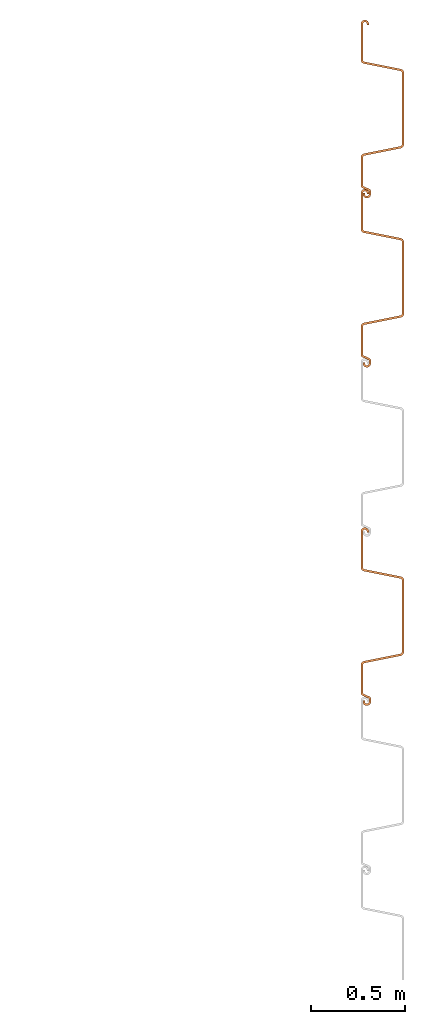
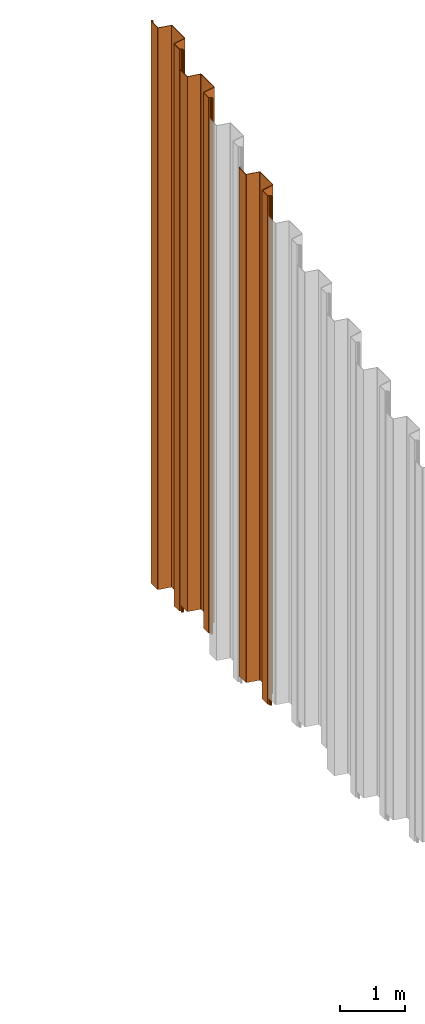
# One storey, part 12 of 12: 3 proxies.
"""IFC2X3 building model written with IfcOpenShell, lengths in millimetres."""

from ifc_helpers import new_model, entity, si_unit, converted_unit, derived_unit, direction, frame, frame_2d, origin, place, context, subcontext, project, spatial, polyline, circle_curve, parameter, trimmed, segment, composite_curve, outline, extrude, source, transform, mapped, material, type_object, type_shapes, element, save


model = new_model("IFC2X3")

# Units and contexts
model_context = context("Model", 3, precision=0.01, world=origin(), true_north=direction((6.12303176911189e-17, 1.0)))
body_context = subcontext(model_context, "Body", "Model", "MODEL_VIEW")
ifc_project = project(units=[si_unit("LENGTHUNIT", "METRE", prefix="MILLI"), si_unit("AREAUNIT", "SQUARE_METRE"), si_unit("VOLUMEUNIT", "CUBIC_METRE"), converted_unit("PLANEANGLEUNIT", "DEGREE", entity("IfcRatioMeasure", 0.0174532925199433), si_unit("PLANEANGLEUNIT", "RADIAN"), dimensions=[0, 0, 0, 0, 0, 0, 0]), si_unit("MASSUNIT", "GRAM", prefix="KILO"), derived_unit("MASSDENSITYUNIT", [(si_unit("MASSUNIT", "GRAM", prefix="KILO"), 1), (si_unit("LENGTHUNIT", "METRE"), -3)]), derived_unit("MOMENTOFINERTIAUNIT", [(si_unit("LENGTHUNIT", "METRE"), 4)]), si_unit("TIMEUNIT", "SECOND"), si_unit("FREQUENCYUNIT", "HERTZ"), si_unit("THERMODYNAMICTEMPERATUREUNIT", "DEGREE_CELSIUS"), derived_unit("THERMALTRANSMITTANCEUNIT", [(si_unit("MASSUNIT", "GRAM", prefix="KILO"), 1), (si_unit("THERMODYNAMICTEMPERATUREUNIT", "KELVIN"), -1), (si_unit("TIMEUNIT", "SECOND"), -3)]), derived_unit("VOLUMETRICFLOWRATEUNIT", [(si_unit("LENGTHUNIT", "METRE"), 3), (si_unit("TIMEUNIT", "SECOND"), -1)]), si_unit("ELECTRICCURRENTUNIT", "AMPERE"), si_unit("ELECTRICVOLTAGEUNIT", "VOLT"), si_unit("POWERUNIT", "WATT"), si_unit("FORCEUNIT", "NEWTON", prefix="KILO"), si_unit("ILLUMINANCEUNIT", "LUX"), si_unit("LUMINOUSFLUXUNIT", "LUMEN"), si_unit("LUMINOUSINTENSITYUNIT", "CANDELA"), derived_unit("USERDEFINED", [(si_unit("MASSUNIT", "GRAM", prefix="KILO"), -1), (si_unit("LENGTHUNIT", "METRE"), -2), (si_unit("TIMEUNIT", "SECOND"), 3), (si_unit("LUMINOUSFLUXUNIT", "LUMEN"), 1)]), derived_unit("LINEARVELOCITYUNIT", [(si_unit("LENGTHUNIT", "METRE"), 1), (si_unit("TIMEUNIT", "SECOND"), -1)]), si_unit("PRESSUREUNIT", "PASCAL"), derived_unit("USERDEFINED", [(si_unit("LENGTHUNIT", "METRE"), -2), (si_unit("MASSUNIT", "GRAM", prefix="KILO"), 1), (si_unit("TIMEUNIT", "SECOND"), -2)]), derived_unit("LINEARFORCEUNIT", [(si_unit("MASSUNIT", "GRAM", prefix="KILO"), 1), (si_unit("LENGTHUNIT", "METRE"), 1), (si_unit("TIMEUNIT", "SECOND"), -2), (si_unit("LENGTHUNIT", "METRE"), -1)]), derived_unit("PLANARFORCEUNIT", [(si_unit("MASSUNIT", "GRAM", prefix="KILO"), 1), (si_unit("LENGTHUNIT", "METRE"), 1), (si_unit("TIMEUNIT", "SECOND"), -2), (si_unit("LENGTHUNIT", "METRE"), -2)])], contexts=[model_context])

# Site, building, storey
site_placement = place(None, origin())
site = spatial("IfcSite", under=ifc_project, at=site_placement, Name="Default", CompositionType="ELEMENT")
building_placement = place(site_placement, origin())
building = spatial("IfcBuilding", under=site, at=building_placement, CompositionType="ELEMENT")
storey_placement = place(building_placement, frame((0.0, 0.0, 10600.0)))
storey = spatial("IfcBuildingStorey", under=building, at=storey_placement, Name="AP+10.600", CompositionType="ELEMENT", Elevation=10600.0)

# Proxies
ifc_material = material(Name="<Unnamed>")
building_element_proxy_type_1 = type_object("IfcBuildingElementProxyType", Name="鋼矢板10H型:鋼矢板10H型", PredefinedType="NOTDEFINED", material=ifc_material)
shared_shape_1 = source(origin(), body_context, "Body", "SweptSolid", [
    extrude(outline(composite_curve([segment(trimmed(circle_curve(frame_2d((85.3662976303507, 306.644432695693), x_axis=(0.422618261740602, 0.906307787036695)), 13.885714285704), [parameter(24.9999999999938)], [parameter(90.0000000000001)], True, "PARAMETER"), True, "CONTINUOUS"), segment(polyline([(72.7815666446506, 312.512789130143), (9.8129512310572, 177.476157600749)]), True, "CONTINUOUS"), segment(trimmed(circle_curve(frame_2d((29.3891994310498, 168.347603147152), x_axis=(0.422618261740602, 0.906307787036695)), 21.6), [parameter(90.0000000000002)], [parameter(168.69006752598)], True, "PARAMETER"), True, "CONTINUOUS"), segment(polyline([(16.598697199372, 150.941769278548), (175.329723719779, 34.2998683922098)]), True, "CONTINUOUS"), segment(trimmed(circle_curve(frame_2d((168.93447260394, 25.596951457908), x_axis=(0.422618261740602, 0.906307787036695)), 10.7999999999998), [parameter(270.0)], [parameter(348.690067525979)], True, "PARAMETER"), False, "CONTINUOUS"), segment(polyline([(178.722596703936, 21.0326742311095), (18.2974003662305, -323.000269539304)]), True, "CONTINUOUS"), segment(trimmed(circle_curve(frame_2d((8.50927626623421, -318.435992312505), x_axis=(0.422618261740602, 0.906307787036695)), 10.8), [parameter(191.30993247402)], [parameter(269.999999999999)], True, "PARAMETER"), False, "CONTINUOUS"), segment(polyline([(5.95324328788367, -328.929166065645), (-185.429973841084, -282.310113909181)]), True, "CONTINUOUS"), segment(trimmed(circle_curve(frame_2d((-190.542039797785, -303.296461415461), x_axis=(0.422618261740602, 0.906307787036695)), 21.6000000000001), [parameter(11.3099324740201)], [parameter(90.0000000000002)], True, "PARAMETER"), True, "CONTINUOUS"), segment(polyline([(-210.118287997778, -294.167906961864), (-290.330886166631, -466.184378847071)]), True, "CONTINUOUS"), segment(trimmed(circle_curve(frame_2d((-270.754637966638, -475.312933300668), x_axis=(0.422618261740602, 0.906307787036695)), 21.6), [parameter(90.0000000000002)], [parameter(269.999999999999)], True, "PARAMETER"), True, "CONTINUOUS"), segment(polyline([(-251.178389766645, -484.441487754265), (-249.065298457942, -479.909948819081)]), True, "CONTINUOUS"), segment(polyline([(-249.065298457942, -479.909948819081), (-258.853422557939, -475.345671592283)]), True, "CONTINUOUS"), segment(polyline([(-258.853422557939, -475.345671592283), (-260.966513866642, -479.877210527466)]), True, "CONTINUOUS"), segment(trimmed(circle_curve(frame_2d((-270.754637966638, -475.312933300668), x_axis=(0.422618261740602, 0.906307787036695)), 10.8), [parameter(90.0000000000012)], [parameter(270.0)], True, "PARAMETER"), False, "CONTINUOUS"), segment(polyline([(-280.542762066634, -470.748656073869), (-200.330163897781, -298.732184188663)]), True, "CONTINUOUS"), segment(trimmed(circle_curve(frame_2d((-190.542039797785, -303.296461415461), x_axis=(0.422618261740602, 0.906307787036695)), 10.8), [parameter(11.3099324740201)], [parameter(89.9999999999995)], True, "PARAMETER"), False, "CONTINUOUS"), segment(polyline([(-187.986006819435, -292.803287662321), (3.39721030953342, -339.422339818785)]), True, "CONTINUOUS"), segment(trimmed(circle_curve(frame_2d((8.50927626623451, -318.435992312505), x_axis=(0.422618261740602, 0.906307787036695)), 21.6), [parameter(191.30993247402)], [parameter(270.0)], True, "PARAMETER"), True, "CONTINUOUS"), segment(polyline([(28.0855244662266, -327.564546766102), (188.510720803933, 16.4683970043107)]), True, "CONTINUOUS"), segment(trimmed(circle_curve(frame_2d((168.93447260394, 25.5969514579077), x_axis=(0.422618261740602, 0.906307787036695)), 21.6), [parameter(270.0)], [parameter(348.69006752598)], True, "PARAMETER"), True, "CONTINUOUS"), segment(polyline([(181.724974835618, 43.0027853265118), (22.9939483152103, 159.644686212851)]), True, "CONTINUOUS"), segment(trimmed(circle_curve(frame_2d((29.3891994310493, 168.347603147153), x_axis=(0.422618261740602, 0.906307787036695)), 10.7999999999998), [parameter(89.9999999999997)], [parameter(168.690067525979)], True, "PARAMETER"), False, "CONTINUOUS"), segment(polyline([(19.6010753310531, 172.911880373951), (82.5696907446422, 307.948511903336)]), True, "CONTINUOUS"), segment(trimmed(circle_curve(frame_2d((85.3662976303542, 306.64443269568), x_axis=(0.422618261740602, 0.906307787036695)), 3.08571428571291), [parameter(25.0000000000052)], [parameter(90.0000000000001)], True, "PARAMETER"), False, "CONTINUOUS"), segment(polyline([(85.3662976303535, 309.730146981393), (122.220231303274, 309.730146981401)]), True, "CONTINUOUS"), segment(trimmed(circle_curve(frame_2d((122.220231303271, 323.615861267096), x_axis=(0.422618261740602, 0.906307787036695)), 13.8857142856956), [parameter(205.000000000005)], [parameter(270.0)], True, "PARAMETER"), True, "CONTINUOUS"), segment(polyline([(134.804962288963, 317.747504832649), (141.079261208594, 331.202782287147)]), True, "CONTINUOUS"), segment(trimmed(circle_curve(frame_2d((121.503013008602, 340.331336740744), x_axis=(0.422618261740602, 0.906307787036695)), 21.6), [parameter(270.0)], [parameter(90.0000000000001)], True, "PARAMETER"), True, "CONTINUOUS"), segment(polyline([(101.926764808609, 349.459891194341), (99.8136734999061, 344.928352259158)]), True, "CONTINUOUS"), segment(polyline([(99.8136734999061, 344.928352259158), (109.601797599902, 340.364075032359)]), True, "CONTINUOUS"), segment(polyline([(109.601797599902, 340.364075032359), (111.714888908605, 344.895613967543)]), True, "CONTINUOUS"), segment(trimmed(circle_curve(frame_2d((121.503013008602, 340.331336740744), x_axis=(0.422618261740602, 0.906307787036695)), 10.8), [parameter(270.0)], [parameter(89.9999999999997)], True, "PARAMETER"), False, "CONTINUOUS"), segment(polyline([(131.291137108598, 335.767059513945), (125.01683818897, 322.311782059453)]), True, "CONTINUOUS"), segment(trimmed(circle_curve(frame_2d((122.220231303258, 323.615861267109), x_axis=(0.422618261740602, 0.906307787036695)), 3.08571428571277), [parameter(204.999999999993)], [parameter(270.0)], True, "PARAMETER"), False, "CONTINUOUS"), segment(polyline([(122.220231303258, 320.530146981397), (85.3662976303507, 320.530146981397)]), True, "CONTINUOUS")], self_intersect=False)), frame((95.205667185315, -48.8888888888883, -9500.0), z_axis=(0.0, 0.0, -1.0), x_axis=(0.4226182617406, 0.906307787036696, 0.0)), (0.0, 0.0, -1.0), 9500.0),
])
type_shapes(building_element_proxy_type_1, [shared_shape_1])
proxy_1_placement = place(storey_placement, frame((89754.0, -3095.0, 4429.95268431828), z_axis=(0.0, 0.0, 1.0), x_axis=(0.0, -1.0, 0.0)))
element("IfcBuildingElementProxy", 1, at=proxy_1_placement, inside=storey, type_object=building_element_proxy_type_1, material=ifc_material, Name="鋼矢板10H型:鋼矢板10H型", ObjectType="鋼矢板10H型:鋼矢板10H型", context=body_context, shape_type="MappedRepresentation", body=[
    mapped(shared_shape_1, transform((0.0, 0.0, 0.0), scale=1.0)),
])
building_element_proxy_type_2 = type_object("IfcBuildingElementProxyType", Name="鋼矢板10H型:鋼矢板10H型", PredefinedType="NOTDEFINED", material=ifc_material)
shared_shape_2 = source(origin(), body_context, "Body", "SweptSolid", [
    extrude(outline(composite_curve([segment(trimmed(circle_curve(frame_2d((85.3662976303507, 306.644432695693), x_axis=(0.422618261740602, 0.906307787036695)), 13.885714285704), [parameter(24.9999999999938)], [parameter(90.0000000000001)], True, "PARAMETER"), True, "CONTINUOUS"), segment(polyline([(72.7815666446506, 312.512789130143), (9.8129512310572, 177.476157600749)]), True, "CONTINUOUS"), segment(trimmed(circle_curve(frame_2d((29.3891994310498, 168.347603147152), x_axis=(0.422618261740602, 0.906307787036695)), 21.6), [parameter(90.0000000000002)], [parameter(168.69006752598)], True, "PARAMETER"), True, "CONTINUOUS"), segment(polyline([(16.598697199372, 150.941769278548), (175.329723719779, 34.2998683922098)]), True, "CONTINUOUS"), segment(trimmed(circle_curve(frame_2d((168.93447260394, 25.596951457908), x_axis=(0.422618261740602, 0.906307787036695)), 10.7999999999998), [parameter(270.0)], [parameter(348.690067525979)], True, "PARAMETER"), False, "CONTINUOUS"), segment(polyline([(178.722596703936, 21.0326742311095), (18.2974003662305, -323.000269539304)]), True, "CONTINUOUS"), segment(trimmed(circle_curve(frame_2d((8.50927626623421, -318.435992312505), x_axis=(0.422618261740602, 0.906307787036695)), 10.8), [parameter(191.30993247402)], [parameter(269.999999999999)], True, "PARAMETER"), False, "CONTINUOUS"), segment(polyline([(5.95324328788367, -328.929166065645), (-185.429973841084, -282.310113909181)]), True, "CONTINUOUS"), segment(trimmed(circle_curve(frame_2d((-190.542039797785, -303.296461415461), x_axis=(0.422618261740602, 0.906307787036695)), 21.6000000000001), [parameter(11.3099324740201)], [parameter(90.0000000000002)], True, "PARAMETER"), True, "CONTINUOUS"), segment(polyline([(-210.118287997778, -294.167906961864), (-290.330886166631, -466.184378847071)]), True, "CONTINUOUS"), segment(trimmed(circle_curve(frame_2d((-270.754637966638, -475.312933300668), x_axis=(0.422618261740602, 0.906307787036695)), 21.6), [parameter(90.0000000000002)], [parameter(269.999999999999)], True, "PARAMETER"), True, "CONTINUOUS"), segment(polyline([(-251.178389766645, -484.441487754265), (-249.065298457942, -479.909948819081)]), True, "CONTINUOUS"), segment(polyline([(-249.065298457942, -479.909948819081), (-258.853422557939, -475.345671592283)]), True, "CONTINUOUS"), segment(polyline([(-258.853422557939, -475.345671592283), (-260.966513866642, -479.877210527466)]), True, "CONTINUOUS"), segment(trimmed(circle_curve(frame_2d((-270.754637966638, -475.312933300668), x_axis=(0.422618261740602, 0.906307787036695)), 10.8), [parameter(90.0000000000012)], [parameter(270.0)], True, "PARAMETER"), False, "CONTINUOUS"), segment(polyline([(-280.542762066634, -470.748656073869), (-200.330163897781, -298.732184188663)]), True, "CONTINUOUS"), segment(trimmed(circle_curve(frame_2d((-190.542039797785, -303.296461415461), x_axis=(0.422618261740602, 0.906307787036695)), 10.8), [parameter(11.3099324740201)], [parameter(89.9999999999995)], True, "PARAMETER"), False, "CONTINUOUS"), segment(polyline([(-187.986006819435, -292.803287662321), (3.39721030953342, -339.422339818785)]), True, "CONTINUOUS"), segment(trimmed(circle_curve(frame_2d((8.50927626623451, -318.435992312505), x_axis=(0.422618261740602, 0.906307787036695)), 21.6), [parameter(191.30993247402)], [parameter(270.0)], True, "PARAMETER"), True, "CONTINUOUS"), segment(polyline([(28.0855244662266, -327.564546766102), (188.510720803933, 16.4683970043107)]), True, "CONTINUOUS"), segment(trimmed(circle_curve(frame_2d((168.93447260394, 25.5969514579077), x_axis=(0.422618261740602, 0.906307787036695)), 21.6), [parameter(270.0)], [parameter(348.69006752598)], True, "PARAMETER"), True, "CONTINUOUS"), segment(polyline([(181.724974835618, 43.0027853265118), (22.9939483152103, 159.644686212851)]), True, "CONTINUOUS"), segment(trimmed(circle_curve(frame_2d((29.3891994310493, 168.347603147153), x_axis=(0.422618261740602, 0.906307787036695)), 10.7999999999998), [parameter(89.9999999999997)], [parameter(168.690067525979)], True, "PARAMETER"), False, "CONTINUOUS"), segment(polyline([(19.6010753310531, 172.911880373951), (82.5696907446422, 307.948511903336)]), True, "CONTINUOUS"), segment(trimmed(circle_curve(frame_2d((85.3662976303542, 306.64443269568), x_axis=(0.422618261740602, 0.906307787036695)), 3.08571428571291), [parameter(25.0000000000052)], [parameter(90.0000000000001)], True, "PARAMETER"), False, "CONTINUOUS"), segment(polyline([(85.3662976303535, 309.730146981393), (122.220231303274, 309.730146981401)]), True, "CONTINUOUS"), segment(trimmed(circle_curve(frame_2d((122.220231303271, 323.615861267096), x_axis=(0.422618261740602, 0.906307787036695)), 13.8857142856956), [parameter(205.000000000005)], [parameter(270.0)], True, "PARAMETER"), True, "CONTINUOUS"), segment(polyline([(134.804962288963, 317.747504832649), (141.079261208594, 331.202782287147)]), True, "CONTINUOUS"), segment(trimmed(circle_curve(frame_2d((121.503013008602, 340.331336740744), x_axis=(0.422618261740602, 0.906307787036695)), 21.6), [parameter(270.0)], [parameter(90.0000000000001)], True, "PARAMETER"), True, "CONTINUOUS"), segment(polyline([(101.926764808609, 349.459891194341), (99.8136734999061, 344.928352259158)]), True, "CONTINUOUS"), segment(polyline([(99.8136734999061, 344.928352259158), (109.601797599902, 340.364075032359)]), True, "CONTINUOUS"), segment(polyline([(109.601797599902, 340.364075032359), (111.714888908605, 344.895613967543)]), True, "CONTINUOUS"), segment(trimmed(circle_curve(frame_2d((121.503013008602, 340.331336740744), x_axis=(0.422618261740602, 0.906307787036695)), 10.8), [parameter(270.0)], [parameter(89.9999999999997)], True, "PARAMETER"), False, "CONTINUOUS"), segment(polyline([(131.291137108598, 335.767059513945), (125.01683818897, 322.311782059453)]), True, "CONTINUOUS"), segment(trimmed(circle_curve(frame_2d((122.220231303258, 323.615861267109), x_axis=(0.422618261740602, 0.906307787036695)), 3.08571428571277), [parameter(204.999999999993)], [parameter(270.0)], True, "PARAMETER"), False, "CONTINUOUS"), segment(polyline([(122.220231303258, 320.530146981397), (85.3662976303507, 320.530146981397)]), True, "CONTINUOUS")], self_intersect=False)), frame((95.205667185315, -48.8888888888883, -10000.0), z_axis=(0.0, 0.0, -1.0), x_axis=(0.4226182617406, 0.906307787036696, 0.0)), (0.0, 0.0, -1.0), 10000.0),
])
type_shapes(building_element_proxy_type_2, [shared_shape_2])
proxy_2_placement = place(storey_placement, frame((89754.0, -1295.0, 5165.75268431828), z_axis=(0.0, 0.0, 1.0), x_axis=(0.0, -1.0, 0.0)))
element("IfcBuildingElementProxy", 2, at=proxy_2_placement, inside=storey, type_object=building_element_proxy_type_2, material=ifc_material, Name="鋼矢板10H型:鋼矢板10H型", ObjectType="鋼矢板10H型:鋼矢板10H型", context=body_context, shape_type="MappedRepresentation", body=[
    mapped(shared_shape_2, transform((0.0, 0.0, 0.0), scale=1.0)),
])
building_element_proxy_type_3 = type_object("IfcBuildingElementProxyType", Name="鋼矢板10H型:鋼矢板10H型", PredefinedType="NOTDEFINED", material=ifc_material)
shared_shape_3 = source(origin(), body_context, "Body", "SweptSolid", [
    extrude(outline(composite_curve([segment(trimmed(circle_curve(frame_2d((85.3662976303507, 306.644432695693), x_axis=(0.422618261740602, 0.906307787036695)), 13.885714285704), [parameter(24.9999999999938)], [parameter(90.0000000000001)], True, "PARAMETER"), True, "CONTINUOUS"), segment(polyline([(72.7815666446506, 312.512789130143), (9.8129512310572, 177.476157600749)]), True, "CONTINUOUS"), segment(trimmed(circle_curve(frame_2d((29.3891994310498, 168.347603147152), x_axis=(0.422618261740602, 0.906307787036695)), 21.6), [parameter(90.0000000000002)], [parameter(168.69006752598)], True, "PARAMETER"), True, "CONTINUOUS"), segment(polyline([(16.598697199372, 150.941769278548), (175.329723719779, 34.2998683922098)]), True, "CONTINUOUS"), segment(trimmed(circle_curve(frame_2d((168.93447260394, 25.596951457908), x_axis=(0.422618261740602, 0.906307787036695)), 10.7999999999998), [parameter(270.0)], [parameter(348.690067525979)], True, "PARAMETER"), False, "CONTINUOUS"), segment(polyline([(178.722596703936, 21.0326742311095), (18.2974003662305, -323.000269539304)]), True, "CONTINUOUS"), segment(trimmed(circle_curve(frame_2d((8.50927626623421, -318.435992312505), x_axis=(0.422618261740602, 0.906307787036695)), 10.8), [parameter(191.30993247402)], [parameter(269.999999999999)], True, "PARAMETER"), False, "CONTINUOUS"), segment(polyline([(5.95324328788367, -328.929166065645), (-185.429973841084, -282.310113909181)]), True, "CONTINUOUS"), segment(trimmed(circle_curve(frame_2d((-190.542039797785, -303.296461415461), x_axis=(0.422618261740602, 0.906307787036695)), 21.6000000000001), [parameter(11.3099324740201)], [parameter(90.0000000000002)], True, "PARAMETER"), True, "CONTINUOUS"), segment(polyline([(-210.118287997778, -294.167906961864), (-290.330886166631, -466.184378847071)]), True, "CONTINUOUS"), segment(trimmed(circle_curve(frame_2d((-270.754637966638, -475.312933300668), x_axis=(0.422618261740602, 0.906307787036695)), 21.6), [parameter(90.0000000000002)], [parameter(269.999999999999)], True, "PARAMETER"), True, "CONTINUOUS"), segment(polyline([(-251.178389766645, -484.441487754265), (-249.065298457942, -479.909948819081)]), True, "CONTINUOUS"), segment(polyline([(-249.065298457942, -479.909948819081), (-258.853422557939, -475.345671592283)]), True, "CONTINUOUS"), segment(polyline([(-258.853422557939, -475.345671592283), (-260.966513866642, -479.877210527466)]), True, "CONTINUOUS"), segment(trimmed(circle_curve(frame_2d((-270.754637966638, -475.312933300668), x_axis=(0.422618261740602, 0.906307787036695)), 10.8), [parameter(90.0000000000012)], [parameter(270.0)], True, "PARAMETER"), False, "CONTINUOUS"), segment(polyline([(-280.542762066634, -470.748656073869), (-200.330163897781, -298.732184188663)]), True, "CONTINUOUS"), segment(trimmed(circle_curve(frame_2d((-190.542039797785, -303.296461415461), x_axis=(0.422618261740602, 0.906307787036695)), 10.8), [parameter(11.3099324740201)], [parameter(89.9999999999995)], True, "PARAMETER"), False, "CONTINUOUS"), segment(polyline([(-187.986006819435, -292.803287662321), (3.39721030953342, -339.422339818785)]), True, "CONTINUOUS"), segment(trimmed(circle_curve(frame_2d((8.50927626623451, -318.435992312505), x_axis=(0.422618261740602, 0.906307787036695)), 21.6), [parameter(191.30993247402)], [parameter(270.0)], True, "PARAMETER"), True, "CONTINUOUS"), segment(polyline([(28.0855244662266, -327.564546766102), (188.510720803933, 16.4683970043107)]), True, "CONTINUOUS"), segment(trimmed(circle_curve(frame_2d((168.93447260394, 25.5969514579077), x_axis=(0.422618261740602, 0.906307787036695)), 21.6), [parameter(270.0)], [parameter(348.69006752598)], True, "PARAMETER"), True, "CONTINUOUS"), segment(polyline([(181.724974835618, 43.0027853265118), (22.9939483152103, 159.644686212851)]), True, "CONTINUOUS"), segment(trimmed(circle_curve(frame_2d((29.3891994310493, 168.347603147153), x_axis=(0.422618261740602, 0.906307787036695)), 10.7999999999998), [parameter(89.9999999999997)], [parameter(168.690067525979)], True, "PARAMETER"), False, "CONTINUOUS"), segment(polyline([(19.6010753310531, 172.911880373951), (82.5696907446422, 307.948511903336)]), True, "CONTINUOUS"), segment(trimmed(circle_curve(frame_2d((85.3662976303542, 306.64443269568), x_axis=(0.422618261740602, 0.906307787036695)), 3.08571428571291), [parameter(25.0000000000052)], [parameter(90.0000000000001)], True, "PARAMETER"), False, "CONTINUOUS"), segment(polyline([(85.3662976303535, 309.730146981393), (122.220231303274, 309.730146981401)]), True, "CONTINUOUS"), segment(trimmed(circle_curve(frame_2d((122.220231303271, 323.615861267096), x_axis=(0.422618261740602, 0.906307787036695)), 13.8857142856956), [parameter(205.000000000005)], [parameter(270.0)], True, "PARAMETER"), True, "CONTINUOUS"), segment(polyline([(134.804962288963, 317.747504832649), (141.079261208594, 331.202782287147)]), True, "CONTINUOUS"), segment(trimmed(circle_curve(frame_2d((121.503013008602, 340.331336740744), x_axis=(0.422618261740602, 0.906307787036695)), 21.6), [parameter(270.0)], [parameter(90.0000000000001)], True, "PARAMETER"), True, "CONTINUOUS"), segment(polyline([(101.926764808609, 349.459891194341), (99.8136734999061, 344.928352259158)]), True, "CONTINUOUS"), segment(polyline([(99.8136734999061, 344.928352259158), (109.601797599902, 340.364075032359)]), True, "CONTINUOUS"), segment(polyline([(109.601797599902, 340.364075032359), (111.714888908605, 344.895613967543)]), True, "CONTINUOUS"), segment(trimmed(circle_curve(frame_2d((121.503013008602, 340.331336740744), x_axis=(0.422618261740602, 0.906307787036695)), 10.8), [parameter(270.0)], [parameter(89.9999999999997)], True, "PARAMETER"), False, "CONTINUOUS"), segment(polyline([(131.291137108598, 335.767059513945), (125.01683818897, 322.311782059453)]), True, "CONTINUOUS"), segment(trimmed(circle_curve(frame_2d((122.220231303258, 323.615861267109), x_axis=(0.422618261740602, 0.906307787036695)), 3.08571428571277), [parameter(204.999999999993)], [parameter(270.0)], True, "PARAMETER"), False, "CONTINUOUS"), segment(polyline([(122.220231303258, 320.530146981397), (85.3662976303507, 320.530146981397)]), True, "CONTINUOUS")], self_intersect=False)), frame((95.205667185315, -48.8888888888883, -10500.0), z_axis=(0.0, 0.0, -1.0), x_axis=(0.4226182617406, 0.906307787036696, 0.0)), (0.0, 0.0, -1.0), 10500.0),
])
type_shapes(building_element_proxy_type_3, [shared_shape_3])
proxy_3_placement = place(storey_placement, frame((89754.0, -395.0, 5531.23393431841), z_axis=(0.0, 0.0, 1.0), x_axis=(0.0, -1.0, 0.0)))
element("IfcBuildingElementProxy", 3, at=proxy_3_placement, inside=storey, type_object=building_element_proxy_type_3, material=ifc_material, Name="鋼矢板10H型:鋼矢板10H型", ObjectType="鋼矢板10H型:鋼矢板10H型", context=body_context, shape_type="MappedRepresentation", body=[
    mapped(shared_shape_3, transform((0.0, 0.0, 0.0), scale=1.0)),
])

save(model, "model.ifc")
